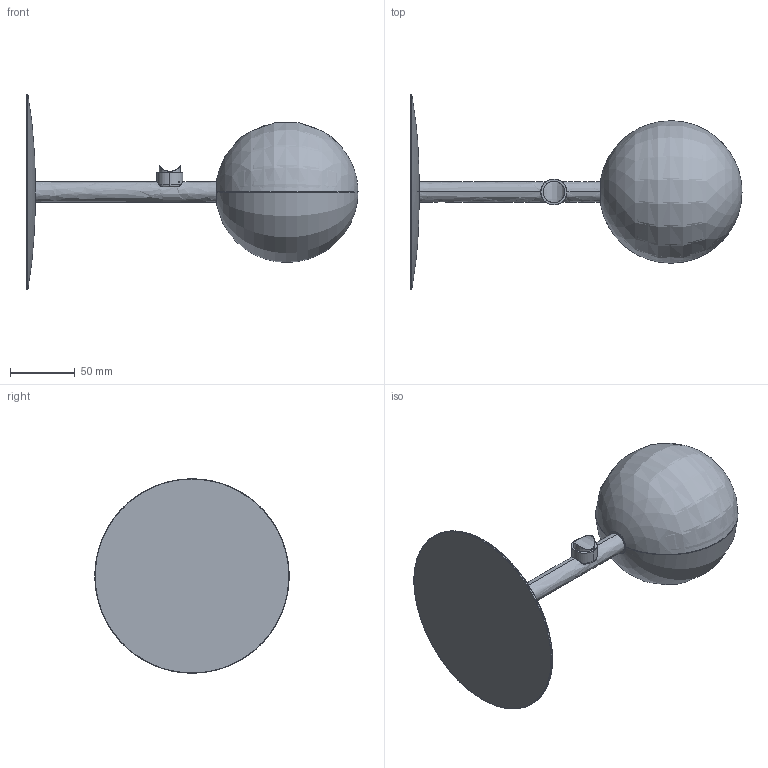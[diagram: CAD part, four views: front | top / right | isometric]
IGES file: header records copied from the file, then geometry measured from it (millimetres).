
Start section: SolidWorks IGES file using analytic representation for surfaces
Global section: file name: C:\Users\Joandita\Dropbox\Rakumba Marketing - Design\PRODUCT\TYPOGRAPHY\VELA\PRODUCT PHOTOGRAPHY\WORKING FILES\RENDERS\CAD\Lightweight\Lights\Eclipse 150.IGS; native system: SolidWorks 2017; preprocessor: SolidWorks 2017; author: Joandita; date: 210916.115414; units: millimetre
Bounding box: 256.37 x 150 x 150 mm (x, y, z)
Surface area: 126196.1 mm2 (no closed solid volume)
Topology: 0 solids, 0 shells, 75 faces, 1458 edges, 1453 vertices
Faces by surface type: revolution 43, bspline 32
